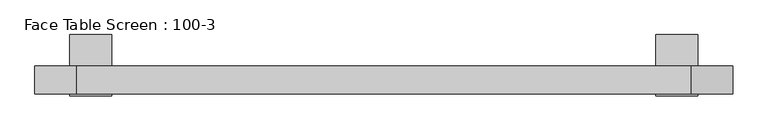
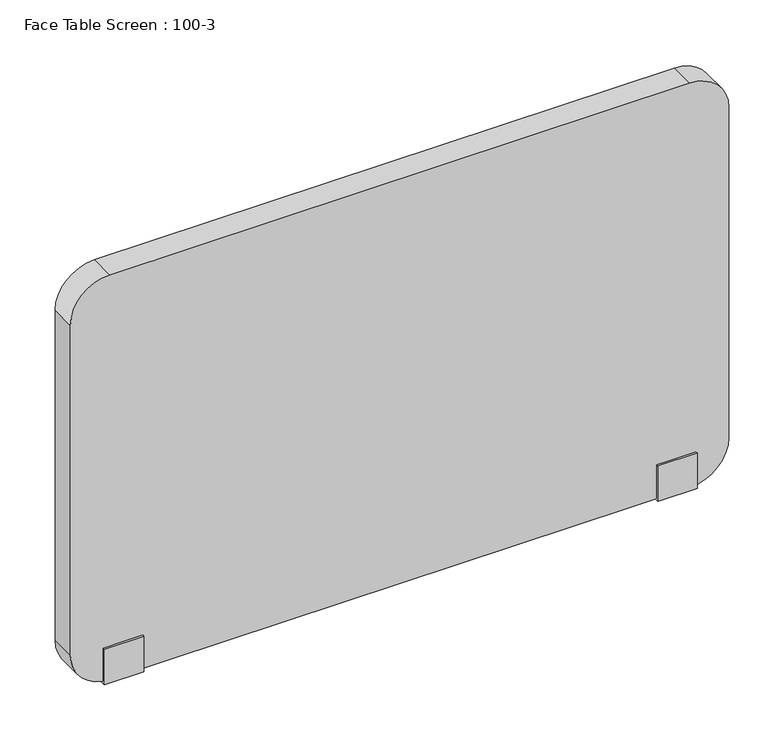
"""IFC4 building model written with IfcOpenShell, lengths in millimetres: furniture geometry, Face Table Screen : 100-3."""

from ifc_helpers import new_model, si_unit, point, frame, frame_2d, origin, place, context, project, spatial, polyline, circle_curve, trimmed, segment, composite_curve, outline, extrude, source, transform, mapped, element, save


def face_table_screen_100_3_8f296eb0(model_context):
    return source(origin(), model_context, "Body", "SweptSolid", [
        extrude(outline(polyline([(-22.9999947, -256.0), (-22.9999997, -199.0433898), (-20.0, -199.0433898), (-20.0, -253.0), (20.0, -253.0), (20.0, -22.0), (65.0, -22.0), (65.0, -25.0433898), (23.0000062, -25.0433898), (22.9999947, -256.0), (-22.9999947, -256.0)])), frame((390.0, 0.0, 0.0), z_axis=(1.0, 0.0, 0.0), x_axis=(0.0, 1.0, 0.0)), (0.0, 0.0, 1.0), 60.0),
        extrude(outline(polyline([(-22.9999947, -256.0), (-22.9999997, -199.0433898), (-20.0, -199.0433898), (-20.0, -253.0), (20.0, -253.0), (20.0, -22.0), (65.0, -22.0), (65.0, -25.0433898), (23.0000062, -25.0433898), (22.9999947, -256.0), (-22.9999947, -256.0)])), frame((-450.0, 0.0, 0.0), z_axis=(1.0, 0.0, 0.0), x_axis=(0.0, 1.0, 0.0)), (0.0, 0.0, 1.0), 60.0),
        extrude(outline(composite_curve([segment(polyline([(397.0, 440.0), (397.0, -440.0)]), True, "CONTINUOUS"), segment(trimmed(circle_curve(frame_2d((337.0, -440.0)), 60.0), [point((397.0, -440.0))], [point((337.0, -500.0))], False, "CARTESIAN"), True, "CONTINUOUS"), segment(polyline([(337.0, -500.0), (-193.0, -500.0)]), True, "CONTINUOUS"), segment(trimmed(circle_curve(frame_2d((-193.0, -440.0)), 60.0), [point((-193.0, -500.0))], [point((-253.0, -440.0))], False, "CARTESIAN"), True, "CONTINUOUS"), segment(polyline([(-253.0, -440.0), (-253.0, 440.0)]), True, "CONTINUOUS"), segment(trimmed(circle_curve(frame_2d((-193.0, 440.0)), 60.0), [point((-253.0, 440.0))], [point((-193.0, 500.0))], False, "CARTESIAN"), True, "CONTINUOUS"), segment(polyline([(-193.0, 500.0), (337.0, 500.0)]), True, "CONTINUOUS"), segment(trimmed(circle_curve(frame_2d((337.0, 440.0)), 60.0), [point((337.0, 500.0))], [point((397.0, 440.0))], False, "CARTESIAN"), True, "CONTINUOUS")], self_intersect=False)), frame((0.0, -20.0, 0.0), z_axis=(0.0, 1.0, 0.0), x_axis=(0.0, 0.0, 1.0)), (0.0, 0.0, 1.0), 40.0),
    ])


if __name__ == "__main__":
    model = new_model("IFC4")
    model_context = context("Model", 3, world=origin())
    ifc_project = project(units=[si_unit("LENGTHUNIT", "METRE", prefix="MILLI")], contexts=[model_context])
    site = spatial("IfcSite", under=ifc_project)
    building = spatial("IfcBuilding", under=site)
    placement = place(None, origin())
    face_table_screen_100_3_shape = face_table_screen_100_3_8f296eb0(model_context)
    element("IfcFurniture", 1, ObjectType="Face Table Screen : 100-3", at=placement, inside=building, context=model_context, shape_type="MappedRepresentation", body=[
        mapped(face_table_screen_100_3_shape, transform((0.0, 0.0, 0.0), x_axis=(1.0, 0.0, 0.0), y_axis=(0.0, 1.0, 0.0), z_axis=(0.0, 0.0, 1.0))),
    ])
    save(model, "model.ifc")
